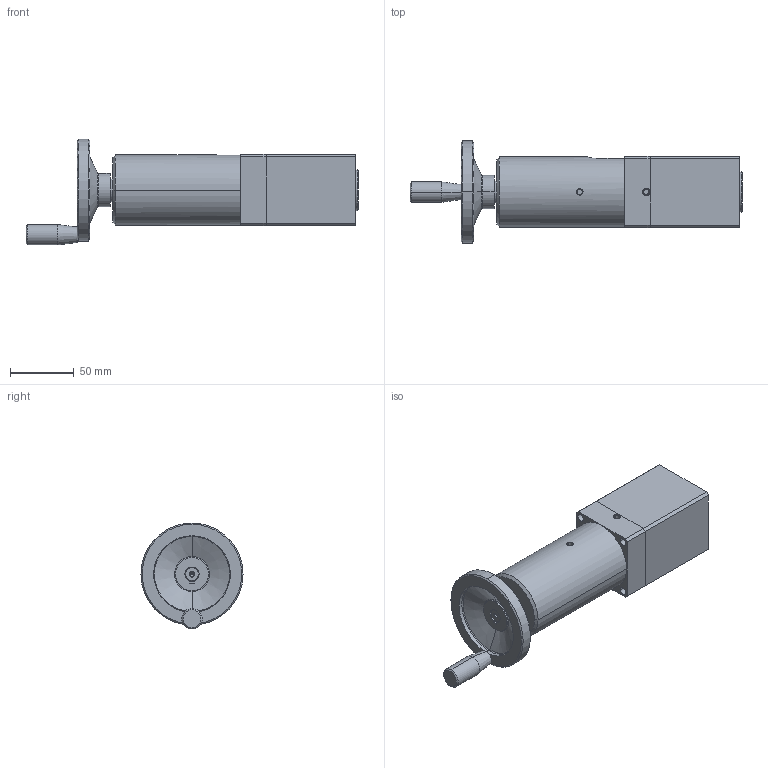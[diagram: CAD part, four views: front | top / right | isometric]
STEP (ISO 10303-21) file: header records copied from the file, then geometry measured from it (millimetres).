
FILE_DESCRIPTION((''),'2;1');
FILE_NAME('MES_ENSEMBLE_ASM','2007-01-29T',('Administrateur'),(''),'PRO/ENGINEER BY PARAMETRIC TECHNOLOGY CORPORATION, 2002180','PRO/ENGINEER BY PARAMETRIC TECHNOLOGY CORPORATION, 2002180','');
FILE_SCHEMA(('CONFIG_CONTROL_DESIGN'));
Length unit declared in the file: millimetre
Products named in the file (10): MES_BRIDE; MES_CORPS; MES_CAPTEUR_2200; MES_PLATEAU_OLDH; MES_DISQUE_OLDH; MES_BAGUE; MES_AXE_VOL; MES_VOLANT; MES_ACC_SOUFFLET; MES_ENSEMBLE_ASM
Assembly tree (10 placements, depth 2):
  MES_ENSEMBLE_ASM
    MES_BRIDE
    MES_CORPS
    MES_CAPTEUR_2200
    MES_PLATEAU_OLDH  x2
    MES_DISQUE_OLDH
    MES_BAGUE
    MES_AXE_VOL
    MES_VOLANT
    MES_ACC_SOUFFLET
Bounding box: 260 x 80 x 83 mm (x, y, z)
Volume: 462012.4 mm3; surface area: 126233.7 mm2
Topology: 10 solids, 17 shells, 373 faces, 903 edges, 577 vertices
Faces by surface type: plane 146, cylinder 143, cone 46, torus 38
Entity records: 10746 total; most frequent: DIRECTION 2010, CARTESIAN_POINT 1949, ORIENTED_EDGE 1626, AXIS2_PLACEMENT_3D 830, EDGE_CURVE 827, VERTEX_POINT 533, CIRCLE 453, EDGE_LOOP 424
